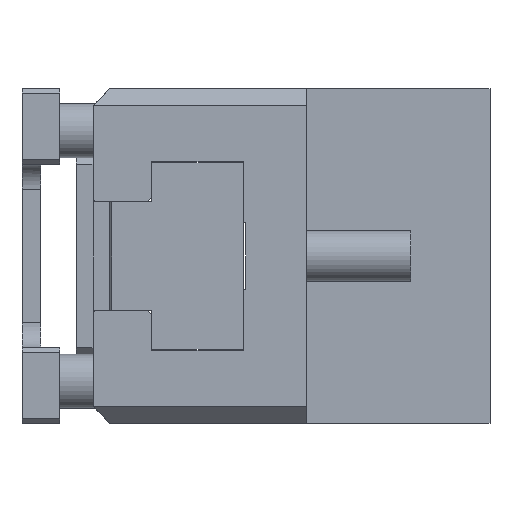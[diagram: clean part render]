
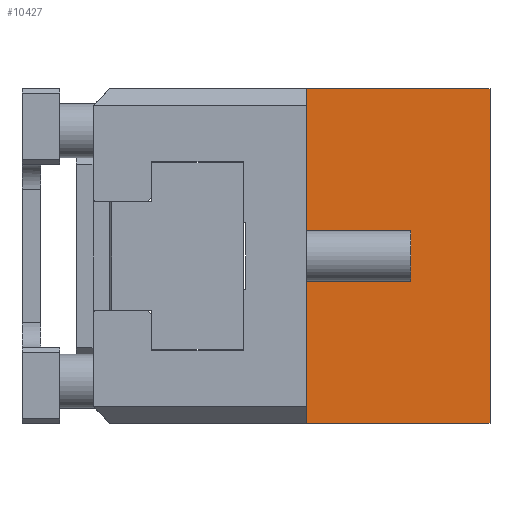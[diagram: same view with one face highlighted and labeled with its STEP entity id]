
A CAD part, left-side view. The second image highlights one B-rep face of the part: STEP entity #10427.
In plain terms, the highlighted planar face has unit normal (-1, 0, 0).
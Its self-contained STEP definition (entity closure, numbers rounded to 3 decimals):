
#489 = DIRECTION ( 'NONE',  ( 0., -1., 0. ) ) ;
#714 = AXIS2_PLACEMENT_3D ( 'NONE', #37907, #42270, #18321 ) ;
#2265 = PLANE ( 'NONE',  #714 ) ;
#2507 = VECTOR ( 'NONE', #23535, 1000. ) ;
#2525 = CARTESIAN_POINT ( 'NONE',  ( -70., 44., 40. ) ) ;
#2561 = LINE ( 'NONE', #30355, #13166 ) ;
#7467 = DIRECTION ( 'NONE',  ( 0., 0., 1. ) ) ;
#8489 = CARTESIAN_POINT ( 'NONE',  ( -70., 44., -40. ) ) ;
#10427 = ADVANCED_FACE ( 'NONE', ( #12457 ), #2265, .F. ) ;
#10811 = DIRECTION ( 'NONE',  ( 0., 0., -1. ) ) ;
#11434 = ORIENTED_EDGE ( 'NONE', *, *, #48803, .F. ) ;
#12457 = FACE_OUTER_BOUND ( 'NONE', #20978, .T. ) ;
#13166 = VECTOR ( 'NONE', #10811, 1000. ) ;
#13423 = CARTESIAN_POINT ( 'NONE',  ( -70., 0., 40. ) ) ;
#15394 = EDGE_CURVE ( 'NONE', #18139, #28684, #40317, .T. ) ;
#18139 = VERTEX_POINT ( 'NONE', #44036 ) ;
#18321 = DIRECTION ( 'NONE',  ( 0., 0., -1. ) ) ;
#19547 = CARTESIAN_POINT ( 'NONE',  ( -70., 44., 40. ) ) ;
#20978 = EDGE_LOOP ( 'NONE', ( #23302, #11434, #24567, #43215 ) ) ;
#23302 = ORIENTED_EDGE ( 'NONE', *, *, #28588, .T. ) ;
#23314 = EDGE_CURVE ( 'NONE', #31708, #18139, #2561, .T. ) ;
#23535 = DIRECTION ( 'NONE',  ( 0., -1., 0. ) ) ;
#24567 = ORIENTED_EDGE ( 'NONE', *, *, #23314, .T. ) ;
#28588 = EDGE_CURVE ( 'NONE', #28684, #51283, #44130, .T. ) ;
#28684 = VERTEX_POINT ( 'NONE', #47802 ) ;
#30355 = CARTESIAN_POINT ( 'NONE',  ( -70., 44., 40. ) ) ;
#31708 = VERTEX_POINT ( 'NONE', #2525 ) ;
#33506 = VECTOR ( 'NONE', #7467, 1000. ) ;
#37907 = CARTESIAN_POINT ( 'NONE',  ( -70., 44., 40. ) ) ;
#40317 = LINE ( 'NONE', #8489, #49675 ) ;
#42270 = DIRECTION ( 'NONE',  ( 1., 0., 0. ) ) ;
#43215 = ORIENTED_EDGE ( 'NONE', *, *, #15394, .T. ) ;
#44036 = CARTESIAN_POINT ( 'NONE',  ( -70., 44., -40. ) ) ;
#44130 = LINE ( 'NONE', #47319, #33506 ) ;
#44964 = LINE ( 'NONE', #19547, #2507 ) ;
#47319 = CARTESIAN_POINT ( 'NONE',  ( -70., 0., 40. ) ) ;
#47802 = CARTESIAN_POINT ( 'NONE',  ( -70., 0., -40. ) ) ;
#48803 = EDGE_CURVE ( 'NONE', #31708, #51283, #44964, .T. ) ;
#49675 = VECTOR ( 'NONE', #489, 1000. ) ;
#51283 = VERTEX_POINT ( 'NONE', #13423 ) ;
